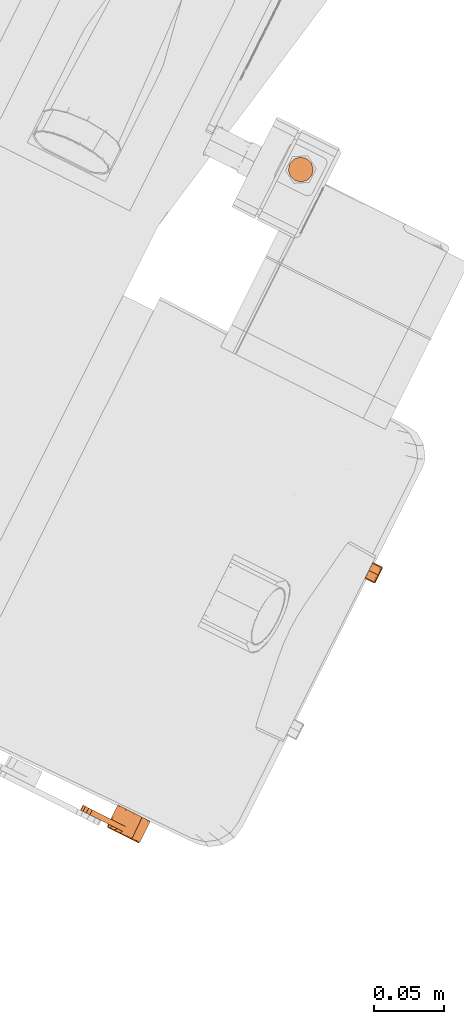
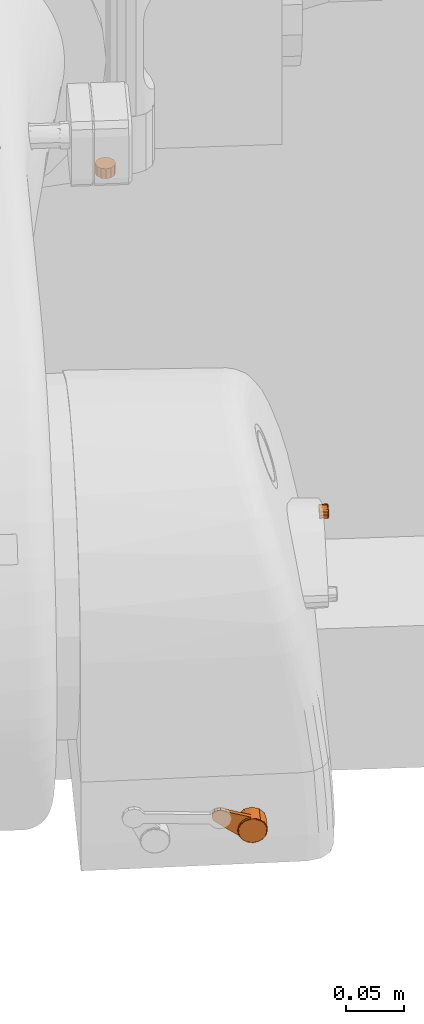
# One storey, part 200 of 206: 3 proxies.
"""IFC2X3 building model written with IfcOpenShell, lengths in metres."""

from ifc_helpers import new_model, si_unit, derived_unit, direction, frame, origin, place, context, subcontext, project, spatial, face_set, faceted_brep, surface_model, source, transform, mapped, material, type_object, type_shapes, element, save


model = new_model("IFC2X3")

# Units and contexts
model_context = context("Model", 3, precision=5.2338327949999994e-05, world=origin(), true_north=direction((0.0, 1.0)))
body_context = subcontext(model_context, "Body", "Model", "MODEL_VIEW")
ifc_project = project(units=[si_unit("LENGTHUNIT", "METRE"), si_unit("AREAUNIT", "SQUARE_METRE"), si_unit("VOLUMEUNIT", "CUBIC_METRE"), si_unit("MASSUNIT", "GRAM", prefix="KILO"), si_unit("PLANEANGLEUNIT", "RADIAN"), derived_unit("THERMALTRANSMITTANCEUNIT", [(si_unit("MASSUNIT", "GRAM", prefix="KILO"), 1), (si_unit("THERMODYNAMICTEMPERATUREUNIT", "KELVIN"), -1), (si_unit("TIMEUNIT", "SECOND"), -3)])], contexts=[model_context])

# Site, building, storey
site_placement = place(None, frame((0.0, 0.0, 0.0), z_axis=(0.0, 0.0, 1.0), x_axis=(0.8939966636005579, -0.4480736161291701, 0.0)))
site = spatial("IfcSite", under=ifc_project, at=site_placement, Name="Default", CompositionType="ELEMENT")
building_placement = place(site_placement, origin())
building = spatial("IfcBuilding", under=site, at=building_placement, CompositionType="ELEMENT")
storey_placement = place(building_placement, origin())
storey = spatial("IfcBuildingStorey", under=building, at=storey_placement, Name="Erdgeschoss", CompositionType="ELEMENT", Elevation=0.0)

# Proxies
ifc_material_1 = material(Name="IfcSurfaceStyle #631137")
building_element_proxy_type_1 = type_object("IfcBuildingElementProxyType", Name="BuildingElementProxy 74:BuildingElementProxy 74", PredefinedType="NOTDEFINED", material=ifc_material_1)
shared_shape_1 = source(origin(), body_context, "Body", "SurfaceModel", [
    surface_model("IfcFaceBasedSurfaceModel", [(21.772947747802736, 4.259254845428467, 0.6884261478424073), (21.773131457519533, 4.2592609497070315, 0.6884102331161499), (21.772947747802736, 4.26160295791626, 0.6888650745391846), (21.773131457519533, 4.26160295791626, 0.6888479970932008), (21.772947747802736, 4.263951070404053, 0.6884261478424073), (21.773131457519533, 4.263944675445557, 0.6884102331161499), (21.772947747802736, 4.265981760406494, 0.687168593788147), (21.773131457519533, 4.2659704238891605, 0.6871560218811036), (21.772947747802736, 4.26742149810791, 0.6852623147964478), (21.773131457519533, 4.267406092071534, 0.6852547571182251), (21.772947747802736, 4.26807523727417, 0.6829647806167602), (21.773131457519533, 4.268058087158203, 0.6829631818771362), (21.772947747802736, 4.2678546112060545, 0.680586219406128), (21.773131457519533, 4.267838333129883, 0.6805908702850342), (21.772947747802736, 4.266789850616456, 0.6784479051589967), (21.773131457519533, 4.2667764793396, 0.678458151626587), (21.772947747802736, 4.265024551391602, 0.6768386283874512), (21.773131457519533, 4.265015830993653, 0.6768530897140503), (21.772947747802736, 4.262797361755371, 0.6759756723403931), (21.773131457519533, 4.262794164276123, 0.6759924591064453), (21.772947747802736, 4.260408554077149, 0.6759756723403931), (21.773131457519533, 4.260411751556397, 0.6759924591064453), (21.772947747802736, 4.258181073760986, 0.6768386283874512), (21.773131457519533, 4.258190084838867, 0.6768530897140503), (21.772947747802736, 4.256415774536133, 0.6784479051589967), (21.773131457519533, 4.25642943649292, 0.678458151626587), (21.772947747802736, 4.25578441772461, 0.6852623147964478), (21.773131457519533, 4.2557995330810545, 0.6852547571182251), (21.772947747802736, 4.257223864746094, 0.687168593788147), (21.773131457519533, 4.257235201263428, 0.6871560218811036), (21.773947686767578, 4.26160295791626, 0.6878650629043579), (21.773947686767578, 4.263589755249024, 0.6874936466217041), (21.77391047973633, 4.263688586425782, 0.6877488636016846), (21.77391047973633, 4.26160295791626, 0.6881387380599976), (21.773947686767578, 4.259616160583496, 0.6874936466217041), (21.77391047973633, 4.259517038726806, 0.6877488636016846), (21.773947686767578, 4.257897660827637, 0.6864296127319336), (21.77391047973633, 4.257713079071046, 0.6866318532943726), (21.773947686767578, 4.256679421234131, 0.6848166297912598), (21.77391047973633, 4.256434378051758, 0.6849385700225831), (21.773947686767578, 4.256126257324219, 0.6828724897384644), (21.77391047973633, 4.255853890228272, 0.6828977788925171), (21.773947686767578, 4.256312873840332, 0.6808598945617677), (21.77391047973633, 4.256049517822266, 0.6807849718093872), (21.773947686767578, 4.257213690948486, 0.6790505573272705), (21.77391047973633, 4.256995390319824, 0.6788855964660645), (21.773947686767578, 4.2587074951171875, 0.6776888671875), (21.77391047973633, 4.2585633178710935, 0.6774561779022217), (21.773947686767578, 4.260592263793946, 0.6769586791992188), (21.77391047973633, 4.260541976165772, 0.6766896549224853), (21.773947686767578, 4.2626133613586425, 0.6769586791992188), (21.77391047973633, 4.262663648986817, 0.6766896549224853), (21.773947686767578, 4.264498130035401, 0.6776888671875), (21.77391047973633, 4.264642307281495, 0.6774561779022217), (21.773947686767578, 4.265991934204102, 0.6790505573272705), (21.77391047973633, 4.266210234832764, 0.6788855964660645), (21.773947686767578, 4.266893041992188, 0.6808598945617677), (21.77391047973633, 4.267156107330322, 0.6807849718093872), (21.773947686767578, 4.267079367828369, 0.6828724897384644), (21.77391047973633, 4.267352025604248, 0.6828977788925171), (21.773947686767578, 4.266526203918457, 0.6848166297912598), (21.77391047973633, 4.26677124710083, 0.6849385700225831), (21.773947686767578, 4.265308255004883, 0.6864296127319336), (21.77391047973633, 4.265492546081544, 0.6866318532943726), (21.773473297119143, 4.26160295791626, 0.6887153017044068), (21.773473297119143, 4.263896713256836, 0.688286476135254), (21.773473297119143, 4.265880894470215, 0.6870579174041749), (21.773473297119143, 4.267287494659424, 0.6851956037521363), (21.773473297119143, 4.267926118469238, 0.6829509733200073), (21.773473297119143, 4.267710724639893, 0.6806272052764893), (21.773473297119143, 4.266670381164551, 0.678538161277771), (21.773473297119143, 4.264945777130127, 0.6769659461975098), (21.773473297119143, 4.262769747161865, 0.676122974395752), (21.773473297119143, 4.260435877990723, 0.676122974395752), (21.773473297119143, 4.258259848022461, 0.6769659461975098), (21.773473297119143, 4.256535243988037, 0.678538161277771), (21.773131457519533, 4.255367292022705, 0.6805908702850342), (21.773473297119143, 4.255495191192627, 0.6806272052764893), (21.773473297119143, 4.255279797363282, 0.6829509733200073), (21.773473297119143, 4.255918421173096, 0.6851956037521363), (21.773473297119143, 4.257324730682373, 0.6870579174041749), (21.773745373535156, 4.26160295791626, 0.6884677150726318), (21.773745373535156, 4.263807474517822, 0.6880556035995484), (21.773745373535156, 4.265714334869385, 0.686874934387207), (21.773745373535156, 4.267065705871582, 0.6850852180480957), (21.773745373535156, 4.267679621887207, 0.6829281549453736), (21.773745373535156, 4.267472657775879, 0.6806950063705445), (21.773745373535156, 4.266473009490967, 0.6786873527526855), (21.773745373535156, 4.264815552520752, 0.6771764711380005), (21.773745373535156, 4.262724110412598, 0.6763662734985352), (21.773745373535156, 4.260481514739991, 0.6763662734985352), (21.773745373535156, 4.258390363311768, 0.6771764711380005), (21.773745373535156, 4.256732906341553, 0.6786873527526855), (21.773745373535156, 4.255733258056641, 0.6806950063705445), (21.773745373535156, 4.255526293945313, 0.6829281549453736), (21.773745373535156, 4.256139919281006, 0.6850852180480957), (21.773745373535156, 4.257491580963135, 0.686874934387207), (21.773745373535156, 4.259398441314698, 0.6880556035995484), (21.772947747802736, 4.25513067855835, 0.6829647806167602), (21.76573888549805, 4.255973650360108, 0.6856150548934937), (21.76573888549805, 4.258352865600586, 0.6879941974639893), (21.76573888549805, 4.26160295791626, 0.6888650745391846), (21.76573888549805, 4.2551027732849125, 0.6823650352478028), (21.76573888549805, 4.255973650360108, 0.6791150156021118), (21.76573888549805, 4.258352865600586, 0.6767358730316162), (21.76573888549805, 4.26160295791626, 0.6758649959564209), (21.76573888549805, 4.264852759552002, 0.6767358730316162), (21.76573888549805, 4.26723197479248, 0.6791150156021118), (21.76573888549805, 4.268102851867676, 0.6823650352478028), (21.76573888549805, 4.26723197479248, 0.6856150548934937), (21.76573888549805, 4.264852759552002, 0.6879941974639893), (21.773947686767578, 4.26160295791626, 0.6823650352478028), (21.76573888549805, 4.26160295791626, 0.6823651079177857), (21.772947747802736, 4.255351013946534, 0.680586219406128), (21.773131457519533, 4.255147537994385, 0.6829631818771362), (21.773473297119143, 4.259308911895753, 0.688286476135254)], [face_set([[[0, 1, 2]], [[2, 1, 3]], [[2, 3, 4]], [[4, 3, 5]], [[4, 5, 6]], [[6, 5, 7]], [[6, 7, 8]], [[8, 7, 9]], [[8, 9, 10]], [[10, 9, 11]], [[10, 11, 12]], [[12, 11, 13]], [[12, 13, 14]], [[14, 13, 15]], [[14, 15, 16]], [[16, 15, 17]], [[16, 17, 18]], [[18, 17, 19]], [[18, 19, 20]], [[20, 19, 21]], [[20, 21, 22]], [[22, 21, 23]], [[22, 23, 24]], [[24, 23, 25]], [[26, 27, 28]], [[28, 27, 29]], [[28, 29, 0]], [[0, 29, 1]], [[30, 31, 32]], [[33, 30, 32]], [[34, 30, 33]], [[35, 34, 33]], [[36, 34, 35]], [[37, 36, 35]], [[38, 36, 37]], [[39, 38, 37]], [[40, 38, 39]], [[41, 40, 39]], [[42, 40, 41]], [[43, 42, 41]], [[44, 42, 43]], [[45, 44, 43]], [[46, 44, 45]], [[47, 46, 45]], [[48, 46, 47]], [[49, 48, 47]], [[50, 48, 49]], [[51, 50, 49]], [[52, 50, 51]], [[53, 52, 51]], [[54, 52, 53]], [[55, 54, 53]], [[56, 54, 55]], [[57, 56, 55]], [[58, 56, 57]], [[59, 58, 57]], [[60, 58, 59]], [[61, 60, 59]], [[62, 60, 61]], [[63, 62, 61]], [[31, 62, 63]], [[32, 31, 63]], [[3, 64, 5]], [[5, 64, 65]], [[5, 65, 7]], [[7, 65, 66]], [[7, 66, 9]], [[9, 66, 67]], [[9, 67, 11]], [[11, 67, 68]], [[11, 68, 13]], [[13, 68, 69]], [[13, 69, 15]], [[15, 69, 70]], [[15, 70, 17]], [[17, 70, 71]], [[17, 71, 19]], [[19, 71, 72]], [[19, 72, 21]], [[21, 72, 73]], [[21, 73, 23]], [[23, 73, 74]], [[23, 74, 25]], [[25, 74, 75]], [[25, 75, 76]], [[76, 75, 77]], [[27, 78, 79]], [[27, 79, 29]], [[29, 79, 80]], [[29, 80, 1]], [[64, 81, 65]], [[65, 81, 82]], [[65, 82, 66]], [[66, 82, 83]], [[66, 83, 67]], [[67, 83, 84]], [[67, 84, 68]], [[68, 84, 85]], [[68, 85, 69]], [[69, 85, 86]], [[69, 86, 70]], [[70, 86, 87]], [[70, 87, 71]], [[71, 87, 88]], [[71, 88, 72]], [[72, 88, 89]], [[72, 89, 73]], [[73, 89, 90]], [[73, 90, 74]], [[74, 90, 91]], [[74, 91, 75]], [[75, 91, 92]], [[75, 92, 77]], [[77, 92, 93]], [[77, 93, 78]], [[78, 93, 94]], [[78, 94, 79]], [[79, 94, 95]], [[79, 95, 80]], [[80, 95, 96]], [[64, 97, 81]], [[81, 33, 82]], [[82, 33, 32]], [[82, 32, 83]], [[83, 32, 63]], [[83, 63, 84]], [[84, 63, 61]], [[84, 61, 85]], [[85, 61, 59]], [[85, 59, 86]], [[86, 59, 57]], [[86, 57, 87]], [[87, 57, 55]], [[87, 55, 88]], [[88, 55, 53]], [[88, 53, 89]], [[89, 53, 51]], [[89, 51, 90]], [[90, 51, 49]], [[90, 49, 91]], [[91, 49, 47]], [[91, 47, 92]], [[92, 47, 45]], [[92, 45, 93]], [[93, 45, 43]], [[93, 43, 94]], [[94, 43, 41]], [[94, 41, 95]], [[95, 41, 39]], [[95, 39, 96]], [[96, 39, 37]], [[96, 37, 97]], [[97, 37, 35]], [[97, 35, 81]], [[81, 35, 33]], [[98, 26, 99]], [[99, 26, 28]], [[99, 28, 100]], [[100, 28, 0]], [[100, 0, 101]], [[101, 0, 2]], [[101, 2, 4]], [[99, 102, 98]], [[103, 104, 24]], [[24, 104, 22]], [[22, 104, 20]], [[20, 104, 105]], [[20, 105, 18]], [[18, 105, 106]], [[18, 106, 16]], [[14, 16, 106]], [[106, 107, 14]], [[14, 107, 12]], [[107, 108, 12]], [[12, 108, 10]], [[108, 109, 10]], [[10, 109, 8]], [[8, 109, 6]], [[6, 109, 110]], [[6, 110, 4]], [[4, 110, 101]], [[58, 60, 111]], [[111, 60, 62]], [[111, 62, 31]], [[111, 31, 30]], [[50, 52, 111]], [[111, 52, 54]], [[111, 54, 56]], [[111, 56, 58]], [[40, 42, 111]], [[111, 42, 44]], [[111, 44, 46]], [[111, 46, 48]], [[30, 34, 111]], [[111, 34, 36]], [[111, 36, 38]], [[111, 38, 40]], [[48, 50, 111]], [[100, 101, 112]], [[112, 101, 110]], [[112, 110, 109]], [[112, 109, 108]], [[112, 108, 107]], [[112, 107, 106]], [[112, 106, 105]], [[105, 104, 112]], [[112, 104, 103]], [[112, 103, 102]], [[112, 102, 99]], [[112, 99, 100]], [[24, 25, 113]], [[113, 25, 76]], [[113, 76, 98]], [[98, 76, 114]], [[98, 114, 26]], [[26, 114, 27]], [[76, 77, 114]], [[114, 77, 78]], [[114, 78, 27]], [[1, 80, 115]], [[1, 115, 3]], [[3, 115, 64]], [[80, 96, 115]], [[115, 96, 97]], [[115, 97, 64]], [[98, 102, 113]], [[102, 103, 113]], [[113, 103, 24]]])]),
])
type_shapes(building_element_proxy_type_1, [shared_shape_1])
proxy_1_placement = place(storey_placement, origin())
element("IfcBuildingElementProxy", 1, at=proxy_1_placement, inside=storey, type_object=building_element_proxy_type_1, material=ifc_material_1, Name="BuildingElementProxy 74", context=body_context, shape_type="MappedRepresentation", body=[
    mapped(shared_shape_1, transform((0.0, 0.0, 0.0), scale=1.0)),
])
ifc_material_2 = material(Name="IfcSurfaceStyle #624289")
building_element_proxy_type_2 = type_object("IfcBuildingElementProxyType", Name="BuildingElementProxy 95:BuildingElementProxy 95", PredefinedType="NOTDEFINED", material=ifc_material_2)
shared_shape_2 = source(origin(), body_context, "Body", "Brep", [
    faceted_brep([(21.70504837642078, 4.0137234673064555, 0.5236563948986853), (21.705311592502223, 4.013761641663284, 0.5237312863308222), (21.703082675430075, 4.013723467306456, 0.5276040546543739), (21.70330106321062, 4.013761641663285, 0.5277689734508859), (21.699823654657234, 4.013723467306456, 0.5305750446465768), (21.699967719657, 4.013761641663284, 0.5308077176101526), (21.69571146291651, 4.013723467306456, 0.5321681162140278), (21.69576174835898, 4.013761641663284, 0.5324371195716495), (21.691301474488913, 4.0137234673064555, 0.5321681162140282), (21.691251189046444, 4.013761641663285, 0.5324371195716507), (21.68718928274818, 4.0137234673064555, 0.5305750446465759), (21.68704521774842, 4.013761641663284, 0.5308077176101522), (21.683930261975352, 4.0137234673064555, 0.5276040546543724), (21.683711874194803, 4.013761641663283, 0.5277689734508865), (21.68196456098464, 4.013723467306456, 0.5236563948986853), (21.681701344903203, 4.013761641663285, 0.5237312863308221), (21.681557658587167, 4.0137234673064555, 0.5192652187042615), (21.68128516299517, 4.013761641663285, 0.5192399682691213), (21.682764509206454, 4.013723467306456, 0.5150235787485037), (21.682519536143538, 4.013761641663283, 0.51490159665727), (21.685422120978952, 4.013723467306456, 0.5115043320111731), (21.68523775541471, 4.013761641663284, 0.511302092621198), (21.689171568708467, 4.013723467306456, 0.5091827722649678), (21.689072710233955, 4.013761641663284, 0.5089275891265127), (21.69350646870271, 4.0137234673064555, 0.5083724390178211), (21.69350646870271, 4.013761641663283, 0.508098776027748), (21.697841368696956, 4.0137234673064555, 0.5091827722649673), (21.697940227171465, 4.013761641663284, 0.5089275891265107), (21.701590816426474, 4.013723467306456, 0.5115043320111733), (21.701775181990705, 4.013761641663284, 0.5113020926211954), (21.704248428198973, 4.013723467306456, 0.5150235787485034), (21.70449340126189, 4.013761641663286, 0.514901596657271), (21.70545527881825, 4.013723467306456, 0.5192652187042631), (21.705727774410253, 4.013761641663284, 0.5192399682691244), (21.70550646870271, 4.013723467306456, 0.5203724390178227), (21.70645101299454, 4.014723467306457, 0.5191729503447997), (21.706434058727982, 4.014539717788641, 0.519174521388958), (21.705143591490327, 4.014723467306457, 0.5145778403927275), (21.705128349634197, 4.014539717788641, 0.5145854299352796), (21.702264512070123, 4.0147234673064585, 0.5107653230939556), (21.70225304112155, 4.014539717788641, 0.5107779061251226), (21.698202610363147, 4.014723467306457, 0.508250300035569), (21.698196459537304, 4.014539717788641, 0.508266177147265), (21.69350646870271, 4.014723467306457, 0.5073724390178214), (21.693506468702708, 4.014539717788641, 0.5073894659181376), (21.68881032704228, 4.014723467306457, 0.5082503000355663), (21.68881647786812, 4.014539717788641, 0.5082661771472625), (21.684748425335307, 4.014723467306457, 0.5107653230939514), (21.684759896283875, 4.014539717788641, 0.5107779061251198), (21.6818693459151, 4.014723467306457, 0.5145778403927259), (21.681884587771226, 4.01453971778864, 0.5145854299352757), (21.680561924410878, 4.014723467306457, 0.5191729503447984), (21.680578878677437, 4.01453971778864, 0.5191745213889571), (21.68100273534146, 4.014723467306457, 0.523930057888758), (21.681019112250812, 4.014539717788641, 0.5239253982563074), (21.68313224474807, 4.014723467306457, 0.5282066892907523), (21.683145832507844, 4.01453971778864, 0.5281964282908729), (21.686662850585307, 4.014723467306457, 0.5314252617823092), (21.686671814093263, 4.014539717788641, 0.5314107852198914), (21.691117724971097, 4.014723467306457, 0.5331510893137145), (21.691120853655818, 4.014539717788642, 0.5331343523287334), (21.69589521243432, 4.014723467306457, 0.5331510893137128), (21.69589208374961, 4.01453971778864, 0.5331343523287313), (21.70035008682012, 4.014723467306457, 0.5314252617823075), (21.70034112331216, 4.014539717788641, 0.5314107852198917), (21.70388069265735, 4.014723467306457, 0.5282066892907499), (21.70386710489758, 4.01453971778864, 0.5281964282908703), (21.706010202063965, 4.014723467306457, 0.523930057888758), (21.7059938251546, 4.014539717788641, 0.5239253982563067), (21.706506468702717, 4.014723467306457, 0.5203724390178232), (21.69350646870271, 4.013925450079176, 0.507769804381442), (21.6980590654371, 4.013925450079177, 0.5086208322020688), (21.701996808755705, 4.013925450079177, 0.5110589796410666), (21.704787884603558, 4.013925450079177, 0.5147549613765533), (21.706055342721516, 4.013925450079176, 0.5192096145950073), (21.705628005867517, 4.013925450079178, 0.5238213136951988), (21.70356358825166, 4.013925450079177, 0.5279672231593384), (21.700140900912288, 4.013925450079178, 0.5310874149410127), (21.695822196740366, 4.013925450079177, 0.5327604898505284), (21.691190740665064, 4.013925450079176, 0.5327604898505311), (21.686872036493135, 4.013925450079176, 0.5310874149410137), (21.683449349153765, 4.013925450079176, 0.5279672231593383), (21.6813849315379, 4.013925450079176, 0.5238213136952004), (21.680957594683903, 4.013925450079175, 0.5192096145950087), (21.682225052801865, 4.013925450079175, 0.514754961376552), (21.68501612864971, 4.013925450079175, 0.5110589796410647), (21.688953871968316, 4.013925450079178, 0.508620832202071), (21.69350646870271, 4.01419703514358, 0.507522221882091), (21.698148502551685, 4.014197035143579, 0.5083899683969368), (21.70216360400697, 4.014197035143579, 0.5108760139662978), (21.705009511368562, 4.014197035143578, 0.5146446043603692), (21.706301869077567, 4.014197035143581, 0.5191867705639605), (21.705866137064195, 4.014197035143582, 0.5238890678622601), (21.703761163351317, 4.014197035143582, 0.5281164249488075), (21.70027123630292, 4.01419703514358, 0.5312979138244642), (21.695867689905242, 4.014197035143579, 0.5330038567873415), (21.691145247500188, 4.014197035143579, 0.5330038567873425), (21.686741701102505, 4.014197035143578, 0.531297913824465), (21.683251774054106, 4.014197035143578, 0.5281164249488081), (21.68114680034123, 4.014197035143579, 0.5238890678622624), (21.680711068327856, 4.014197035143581, 0.5191867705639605), (21.682003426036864, 4.014197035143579, 0.5146446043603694), (21.684849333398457, 4.014197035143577, 0.5108760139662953), (21.688864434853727, 4.014197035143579, 0.5083899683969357), (21.70000646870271, 4.031395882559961, 0.5316307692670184), (21.70476479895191, 4.031395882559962, 0.5268724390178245), (21.706506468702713, 4.031395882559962, 0.5203724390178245), (21.69350646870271, 4.031395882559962, 0.533372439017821), (21.692315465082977, 4.0201769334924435, 0.5333177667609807), (21.69231546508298, 4.016176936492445, 0.533317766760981), (21.68916014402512, 4.0201769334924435, 0.5326243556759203), (21.687006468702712, 4.031395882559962, 0.5316307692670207), (21.687717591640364, 4.0201769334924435, 0.5320124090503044), (21.68390222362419, 4.0201769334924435, 0.5291336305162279), (21.682248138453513, 4.031395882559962, 0.5268724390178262), (21.68138509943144, 4.0201769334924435, 0.5250705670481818), (21.68050646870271, 4.031395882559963, 0.5203724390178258), (21.68050646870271, 4.020176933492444, 0.5203724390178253), (21.680810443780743, 4.0201769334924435, 0.5175776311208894), (21.68224813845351, 4.031395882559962, 0.5138724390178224), (21.682351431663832, 4.0201769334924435, 0.5136967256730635), (21.687006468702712, 4.031395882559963, 0.5091141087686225), (21.69350646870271, 4.031395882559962, 0.5073724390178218), (21.70000646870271, 4.031395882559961, 0.5091141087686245), (21.704764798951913, 4.031395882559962, 0.5138724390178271), (21.687717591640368, 4.016176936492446, 0.5320124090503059), (21.683902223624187, 4.016176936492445, 0.5291336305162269), (21.681385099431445, 4.016176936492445, 0.5250705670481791), (21.680506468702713, 4.016176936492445, 0.5203724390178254), (21.680810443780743, 4.016176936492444, 0.5175776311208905), (21.681144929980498, 4.016176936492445, 0.5163484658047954), (21.682351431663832, 4.016176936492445, 0.5136967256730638), (21.679500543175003, 4.016176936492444, 0.515813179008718), (21.67796695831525, 4.016176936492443, 0.5169516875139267), (21.68849264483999, 4.016176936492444, 0.5345059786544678), (21.665879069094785, 4.016176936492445, 0.5415347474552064), (21.661288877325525, 4.016176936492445, 0.5293332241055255), (21.662913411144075, 4.016176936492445, 0.541273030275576), (21.66035558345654, 4.016176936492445, 0.5397495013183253), (21.65871304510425, 4.016176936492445, 0.5372664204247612), (21.658311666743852, 4.016176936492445, 0.5343164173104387), (21.659231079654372, 4.016176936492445, 0.5314847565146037), (21.688492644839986, 4.0201769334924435, 0.5345059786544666), (21.665879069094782, 4.0201769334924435, 0.5415347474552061), (21.679500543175, 4.0201769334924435, 0.5158131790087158), (21.67796695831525, 4.0201769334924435, 0.5169516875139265), (21.66128887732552, 4.0201769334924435, 0.5293332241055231), (21.659231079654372, 4.0201769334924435, 0.5314847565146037), (21.658311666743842, 4.0201769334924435, 0.5343164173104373), (21.65871304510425, 4.0201769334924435, 0.5372664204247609), (21.660355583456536, 4.020176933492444, 0.5397495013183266), (21.662913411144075, 4.0201769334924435, 0.5412730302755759)], [[[0, 1, 2]], [[2, 1, 3]], [[2, 3, 4]], [[4, 3, 5]], [[4, 5, 6]], [[6, 5, 7]], [[6, 7, 8]], [[8, 7, 9]], [[8, 9, 10]], [[10, 9, 11]], [[10, 11, 12]], [[12, 11, 13]], [[12, 13, 14]], [[14, 13, 15]], [[14, 15, 16]], [[16, 15, 17]], [[16, 17, 18]], [[18, 17, 19]], [[18, 19, 20]], [[20, 19, 21]], [[20, 21, 22]], [[22, 21, 23]], [[22, 23, 24]], [[24, 23, 25]], [[24, 25, 26]], [[26, 25, 27]], [[26, 27, 28]], [[28, 27, 29]], [[28, 29, 30]], [[30, 29, 31]], [[30, 31, 32]], [[32, 31, 33]], [[32, 33, 34]], [[34, 33, 1]], [[34, 1, 0]], [[35, 36, 37]], [[37, 36, 38]], [[37, 38, 39]], [[39, 38, 40]], [[39, 40, 41]], [[41, 40, 42]], [[41, 42, 43]], [[43, 42, 44]], [[43, 44, 45]], [[45, 44, 46]], [[45, 46, 47]], [[47, 46, 48]], [[47, 48, 49]], [[49, 48, 50]], [[49, 50, 51]], [[51, 50, 52]], [[51, 52, 53]], [[53, 52, 54]], [[53, 54, 55]], [[55, 54, 56]], [[55, 56, 57]], [[57, 56, 58]], [[57, 58, 59]], [[59, 58, 60]], [[59, 60, 61]], [[61, 60, 62]], [[61, 62, 63]], [[63, 62, 64]], [[63, 64, 65]], [[65, 64, 66]], [[65, 66, 67]], [[67, 66, 68]], [[67, 68, 69]], [[69, 68, 36]], [[69, 36, 35]], [[25, 70, 27]], [[27, 70, 71]], [[27, 71, 29]], [[29, 71, 72]], [[29, 72, 31]], [[31, 72, 73]], [[31, 73, 33]], [[33, 73, 74]], [[33, 74, 1]], [[1, 74, 75]], [[1, 75, 3]], [[3, 75, 76]], [[3, 76, 5]], [[5, 76, 77]], [[5, 77, 7]], [[7, 77, 78]], [[7, 78, 9]], [[9, 78, 79]], [[9, 79, 11]], [[11, 79, 80]], [[11, 80, 13]], [[13, 80, 81]], [[13, 81, 15]], [[15, 81, 82]], [[15, 82, 17]], [[17, 82, 83]], [[17, 83, 19]], [[19, 83, 84]], [[19, 84, 21]], [[21, 84, 85]], [[21, 85, 23]], [[23, 85, 86]], [[23, 86, 25]], [[25, 86, 70]], [[70, 87, 71]], [[71, 87, 88]], [[71, 88, 72]], [[72, 88, 89]], [[72, 89, 73]], [[73, 89, 90]], [[73, 90, 74]], [[74, 90, 91]], [[74, 91, 75]], [[75, 91, 92]], [[75, 92, 76]], [[76, 92, 93]], [[76, 93, 77]], [[77, 93, 94]], [[77, 94, 78]], [[78, 94, 95]], [[78, 95, 79]], [[79, 95, 96]], [[79, 96, 80]], [[80, 96, 97]], [[80, 97, 81]], [[81, 97, 98]], [[81, 98, 82]], [[82, 98, 99]], [[82, 99, 83]], [[83, 99, 100]], [[83, 100, 84]], [[84, 100, 101]], [[84, 101, 85]], [[85, 101, 102]], [[85, 102, 86]], [[86, 102, 103]], [[86, 103, 70]], [[70, 103, 87]], [[87, 44, 88]], [[88, 44, 42]], [[88, 42, 89]], [[89, 42, 40]], [[89, 40, 90]], [[90, 40, 38]], [[90, 38, 91]], [[91, 38, 36]], [[91, 36, 92]], [[92, 36, 68]], [[92, 68, 93]], [[93, 68, 66]], [[93, 66, 94]], [[94, 66, 64]], [[94, 64, 95]], [[95, 64, 62]], [[95, 62, 96]], [[96, 62, 60]], [[96, 60, 97]], [[97, 60, 58]], [[97, 58, 98]], [[98, 58, 56]], [[98, 56, 99]], [[99, 56, 54]], [[99, 54, 100]], [[100, 54, 52]], [[100, 52, 101]], [[101, 52, 50]], [[101, 50, 102]], [[102, 50, 48]], [[102, 48, 103]], [[103, 48, 46]], [[103, 46, 87]], [[87, 46, 44]], [[6, 8, 4]], [[4, 8, 10]], [[4, 10, 2]], [[2, 10, 12]], [[2, 12, 0]], [[0, 12, 14]], [[0, 14, 34]], [[34, 14, 16]], [[34, 16, 32]], [[32, 16, 30]], [[16, 18, 30]], [[30, 18, 28]], [[18, 20, 28]], [[28, 20, 26]], [[20, 22, 26]], [[26, 22, 24]], [[61, 63, 104]], [[104, 63, 65]], [[104, 65, 105]], [[105, 65, 67]], [[105, 67, 106]], [[106, 67, 69]], [[106, 69, 35]], [[104, 107, 61]], [[61, 107, 108]], [[61, 108, 109]], [[108, 107, 110]], [[110, 107, 111]], [[110, 111, 112]], [[112, 111, 113]], [[111, 114, 113]], [[113, 114, 115]], [[114, 116, 115]], [[115, 116, 117]], [[117, 116, 118]], [[118, 116, 119]], [[118, 119, 120]], [[120, 119, 121]], [[120, 121, 47]], [[47, 121, 45]], [[121, 122, 45]], [[45, 122, 43]], [[43, 122, 41]], [[41, 122, 123]], [[41, 123, 39]], [[39, 123, 124]], [[39, 124, 37]], [[37, 124, 35]], [[124, 106, 35]], [[61, 109, 59]], [[59, 109, 125]], [[59, 125, 57]], [[57, 125, 126]], [[57, 126, 55]], [[55, 126, 127]], [[55, 127, 53]], [[53, 127, 128]], [[53, 128, 51]], [[51, 128, 129]], [[51, 129, 130]], [[51, 130, 49]], [[49, 130, 131]], [[49, 131, 47]], [[47, 131, 120]], [[131, 130, 132]], [[132, 130, 129]], [[132, 129, 133]], [[133, 129, 128]], [[133, 128, 127]], [[125, 134, 126]], [[126, 134, 135]], [[126, 135, 127]], [[127, 135, 136]], [[127, 136, 133]], [[125, 109, 134]], [[135, 137, 136]], [[136, 137, 138]], [[136, 138, 139]], [[139, 140, 136]], [[136, 140, 141]], [[109, 108, 134]], [[134, 108, 142]], [[134, 142, 135]], [[135, 142, 143]], [[120, 131, 144]], [[144, 131, 132]], [[144, 132, 145]], [[145, 132, 133]], [[145, 133, 146]], [[146, 133, 136]], [[136, 141, 146]], [[146, 141, 147]], [[141, 140, 147]], [[147, 140, 148]], [[140, 139, 148]], [[148, 139, 149]], [[139, 138, 149]], [[149, 138, 150]], [[138, 137, 150]], [[150, 137, 151]], [[137, 135, 151]], [[151, 135, 143]], [[108, 110, 142]], [[142, 110, 112]], [[142, 112, 113]], [[142, 113, 143]], [[143, 113, 115]], [[143, 115, 146]], [[146, 115, 145]], [[115, 117, 145]], [[145, 117, 118]], [[145, 118, 144]], [[144, 118, 120]], [[147, 148, 146]], [[146, 148, 143]], [[149, 150, 148]], [[148, 150, 151]], [[148, 151, 143]], [[123, 121, 124]], [[124, 121, 119]], [[124, 119, 106]], [[106, 119, 116]], [[106, 116, 105]], [[105, 116, 114]], [[105, 114, 104]], [[104, 114, 111]], [[104, 111, 107]], [[123, 122, 121]]]),
])
type_shapes(building_element_proxy_type_2, [shared_shape_2])
proxy_2_placement = place(storey_placement, origin())
element("IfcBuildingElementProxy", 2, at=proxy_2_placement, inside=storey, type_object=building_element_proxy_type_2, material=ifc_material_2, Name="BuildingElementProxy 95", context=body_context, shape_type="MappedRepresentation", body=[
    mapped(shared_shape_2, transform((0.0, 0.0, 0.0), scale=1.0)),
])
ifc_material_3 = material(Name="IfcSurfaceStyle #624876")
building_element_proxy_type_3 = type_object("IfcBuildingElementProxyType", Name="BuildingElementProxy 99:BuildingElementProxy 99", PredefinedType="NOTDEFINED", material=ifc_material_3)
shared_shape_3 = source(origin(), body_context, "Body", "Brep", [
    faceted_brep([(21.589571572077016, 4.488133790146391, 0.8943319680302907), (21.598471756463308, 4.488133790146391, 0.8943319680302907), (21.58631387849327, 4.491391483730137, 0.8943319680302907), (21.60172945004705, 4.491391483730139, 0.8943319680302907), (21.585121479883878, 4.495841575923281, 0.8943319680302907), (21.602921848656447, 4.495841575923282, 0.8943319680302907), (21.586313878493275, 4.500291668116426, 0.8943319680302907), (21.60172945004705, 4.500291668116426, 0.8943319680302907), (21.589571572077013, 4.503549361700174, 0.8943319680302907), (21.598471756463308, 4.503549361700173, 0.8943319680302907), (21.594021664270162, 4.504741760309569, 0.8943319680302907), (21.59402166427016, 4.486941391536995, 0.8943319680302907), (21.60172945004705, 4.500291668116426, 0.8838319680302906), (21.602921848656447, 4.495841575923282, 0.8838319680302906), (21.60172945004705, 4.491391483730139, 0.8838319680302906), (21.59847175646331, 4.488133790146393, 0.8838319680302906), (21.59402166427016, 4.486941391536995, 0.8838319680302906), (21.589571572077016, 4.48813379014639, 0.8838319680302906), (21.58631387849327, 4.491391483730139, 0.8838319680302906), (21.585121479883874, 4.495841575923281, 0.8838319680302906), (21.586313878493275, 4.500291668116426, 0.8838319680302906), (21.589571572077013, 4.503549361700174, 0.8838319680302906), (21.594021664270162, 4.50474176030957, 0.8838319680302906), (21.598471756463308, 4.5035493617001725, 0.8838319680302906)], [[[0, 1, 2]], [[2, 1, 3]], [[2, 3, 4]], [[4, 3, 5]], [[4, 5, 6]], [[6, 5, 7]], [[6, 7, 8]], [[8, 7, 9]], [[8, 9, 10]], [[0, 11, 1]], [[12, 5, 13]], [[13, 5, 3]], [[13, 3, 14]], [[14, 3, 1]], [[14, 1, 15]], [[15, 1, 11]], [[15, 11, 16]], [[16, 11, 0]], [[16, 0, 17]], [[17, 0, 2]], [[17, 2, 18]], [[18, 2, 4]], [[18, 4, 19]], [[19, 4, 6]], [[19, 6, 20]], [[20, 6, 8]], [[20, 8, 21]], [[21, 8, 10]], [[21, 10, 22]], [[22, 10, 9]], [[22, 9, 23]], [[23, 9, 7]], [[23, 7, 12]], [[12, 7, 5]], [[15, 17, 14]], [[14, 17, 18]], [[14, 18, 13]], [[13, 18, 19]], [[13, 19, 12]], [[12, 19, 20]], [[12, 20, 23]], [[23, 20, 21]], [[23, 21, 22]], [[15, 16, 17]]]),
])
type_shapes(building_element_proxy_type_3, [shared_shape_3])
proxy_3_placement = place(storey_placement, origin())
element("IfcBuildingElementProxy", 3, at=proxy_3_placement, inside=storey, type_object=building_element_proxy_type_3, material=ifc_material_3, Name="BuildingElementProxy 99", context=body_context, shape_type="MappedRepresentation", body=[
    mapped(shared_shape_3, transform((0.0, 0.0, 0.0), scale=1.0)),
])

save(model, "model.ifc")
